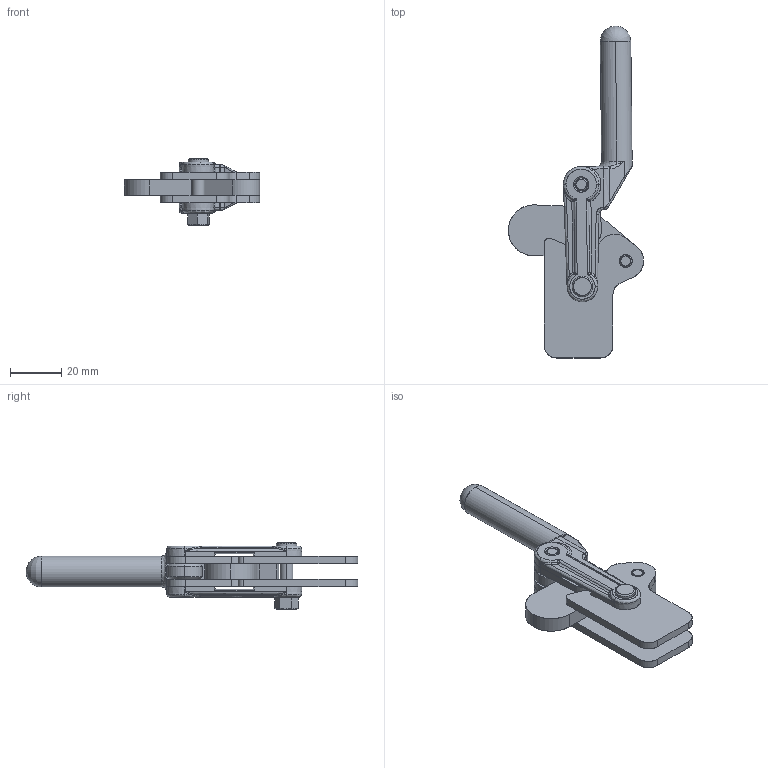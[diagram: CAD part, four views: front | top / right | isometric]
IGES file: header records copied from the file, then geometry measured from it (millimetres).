
Start section: SolidWorks IGES file using analytic representation for surfaces
Global section: file name: D:\GH Files\GH-SW-FILES\GH7\70320,70300B,70300T\70300T\70300T.IGS; native system: SolidWorks 2006 by SolidWorks Corporation; preprocessor: SolidWorks 2006 by SolidWorks Corporation; author: Administrator; date: 060705.131654; units: millimetre
Bounding box: 52.99 x 130.15 x 26.5 mm (x, y, z)
Surface area: 19664.3 mm2 (no closed solid volume)
Topology: 0 solids, 0 shells, 868 faces, 6399 edges, 6388 vertices
Faces by surface type: bspline 569, revolution 299
